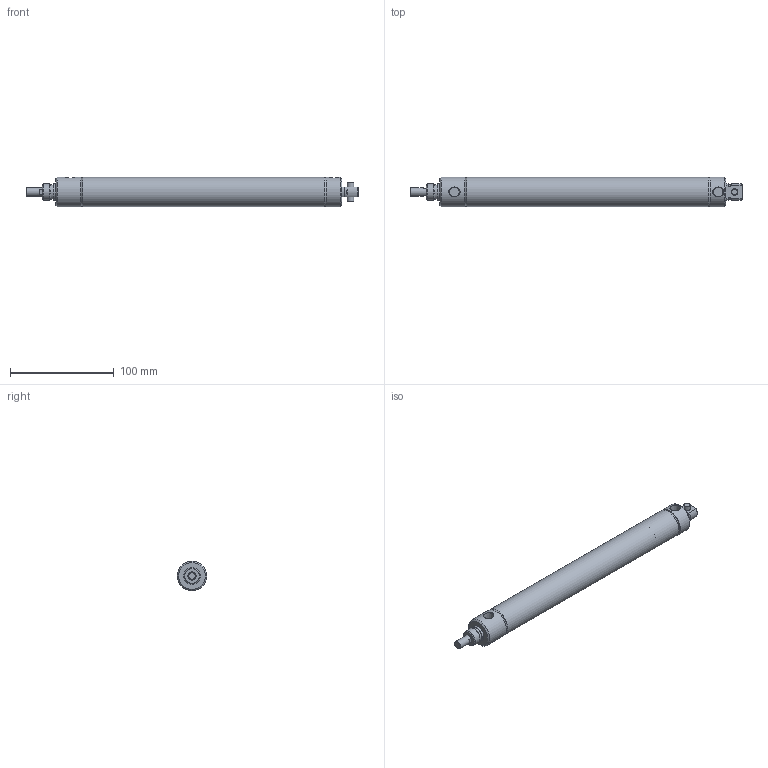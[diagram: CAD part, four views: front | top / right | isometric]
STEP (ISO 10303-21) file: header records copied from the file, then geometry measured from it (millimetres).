
FILE_DESCRIPTION( ( 'STEP AP214' ), '1' );
FILE_NAME( 'p:/temp/worker_508/temp/exporttempdir_3692_4_FUctZ/format_0/1062D02-08A-03.stp', '2020-05-07T16:46:23', ( 'License CC BY-ND 4.0' ), ( 'CADENAS' ), ' ', 'PARTsolutions', ' ' );
FILE_SCHEMA( ( 'AUTOMOTIVE_DESIGN { 1 0 10303 214 1 1 1 1 }' ) );
Length unit declared in the file: inch
Products named in the file (3): 1062D02-08A-03; _1062D02-08A-031062D02-08A-0300A00A0b; _1062D02-08A-031062D02-08A-0300A00A0r
Assembly tree (2 placements, depth 2):
  1062D02-08A-03
    _1062D02-08A-031062D02-08A-0300A00A0b
    _1062D02-08A-031062D02-08A-0300A00A0r
Bounding box: 320.68 x 28.57 x 28.57 mm (x, y, z)
Volume: 72933.5 mm3; surface area: 60171.9 mm2
Topology: 2 solids, 2 shells, 65 faces, 129 edges, 83 vertices
Faces by surface type: plane 27, cone 19, cylinder 19
Full cylindrical faces by diameter (mm): 6.35 x2, 7.95 x3, 14.196 x1, 15.85 x1, 15.875 x1, 26.987 x2, 28.397 x1, 28.575 x2
Entity records: 2276 total; most frequent: CARTESIAN_POINT 442, DIRECTION 280, ORIENTED_EDGE 204, AXIS2_PLACEMENT_3D 126, EDGE_LOOP 104, EDGE_CURVE 102, VERTEX_POINT 80, FACE_OUTER_BOUND 78
